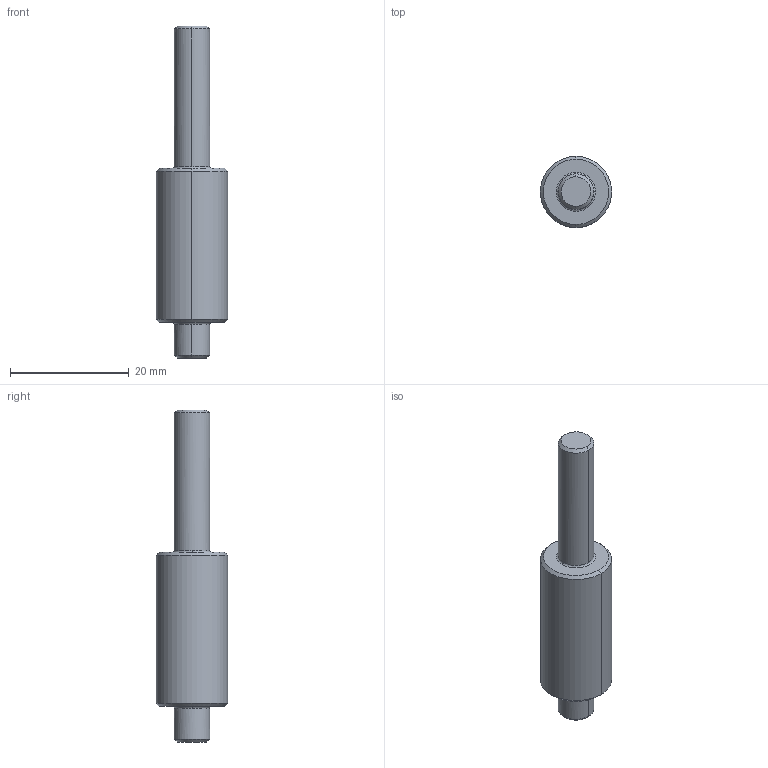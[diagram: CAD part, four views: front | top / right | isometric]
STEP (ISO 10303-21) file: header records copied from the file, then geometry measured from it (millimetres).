
FILE_DESCRIPTION(/* description */ (''),/* implementation_level */ '2;1');
FILE_NAME(/* name */ 'X-DC42~1',/* time_stamp */ '2014-02-14T19:47:18+01:00',/* author */ (''),/* organization */ (''),/* preprocessor_version */ 'ST-DEVELOPER v14',/* originating_system */ '',/* authorisation */ '');
FILE_SCHEMA (('AUTOMOTIVE_DESIGN'));
Length unit declared in the file: millimetre
Products named in the file (1): Document
Bounding box: 12 x 12 x 56 mm (x, y, z)
Volume: 3780.3 mm3; surface area: 1733.8 mm2
Topology: 1 solids, 1 shells, 22 faces, 46 edges, 28 vertices
Faces by surface type: bspline 18, plane 4
Entity records: 1600 total; most frequent: CARTESIAN_POINT 994, B_SPLINE_CURVE_WITH_KNOTS 94, ORIENTED_EDGE 92, PCURVE 92, DEFINITIONAL_REPRESENTATION 92, SURFACE_CURVE 46, EDGE_CURVE 46, VERTEX_POINT 28
